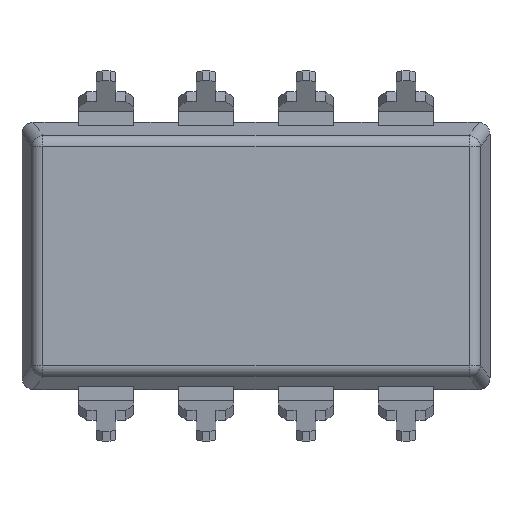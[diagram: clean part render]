
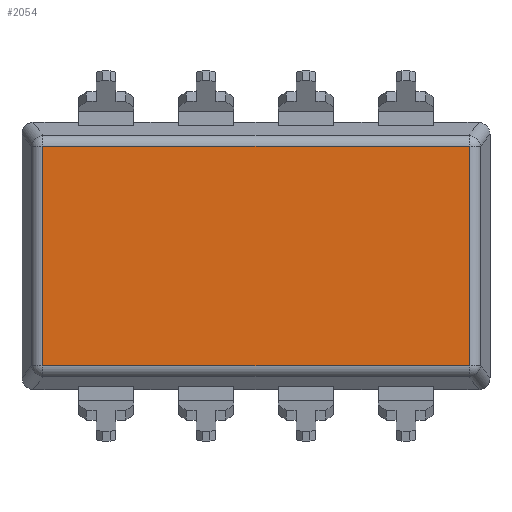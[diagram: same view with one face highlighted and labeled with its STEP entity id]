
A CAD part, front view. The second image highlights one B-rep face of the part: STEP entity #2054.
In plain terms, the highlighted planar face has unit normal (0, -1, 0).
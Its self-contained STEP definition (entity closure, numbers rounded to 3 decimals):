
#2053 = VERTEX_POINT ( 'NONE', #8544 ) ;
#2054 = ADVANCED_FACE ( 'NONE', ( #8543 ), #8542, .F. ) ;
#2055 = EDGE_LOOP ( 'NONE', ( #2133, #2062, #2126, #2130 ) ) ;
#2062 = ORIENTED_EDGE ( 'NONE', *, *, #2125, .T. ) ;
#2125 = EDGE_CURVE ( 'NONE', #2132, #2127, #8720, .T. ) ;
#2126 = ORIENTED_EDGE ( 'NONE', *, *, #2128, .T. ) ;
#2127 = VERTEX_POINT ( 'NONE', #8716 ) ;
#2128 = EDGE_CURVE ( 'NONE', #2127, #2129, #8715, .T. ) ;
#2129 = VERTEX_POINT ( 'NONE', #8711 ) ;
#2130 = ORIENTED_EDGE ( 'NONE', *, *, #2131, .T. ) ;
#2131 = EDGE_CURVE ( 'NONE', #2129, #2053, #8710, .T. ) ;
#2132 = VERTEX_POINT ( 'NONE', #8706 ) ;
#2133 = ORIENTED_EDGE ( 'NONE', *, *, #2134, .T. ) ;
#2134 = EDGE_CURVE ( 'NONE', #2053, #2132, #8705, .T. ) ;
#8538 = DIRECTION ( 'NONE',  ( 0., 0., 1. ) ) ;
#8539 = DIRECTION ( 'NONE',  ( 0., 1., 0. ) ) ;
#8540 = CARTESIAN_POINT ( 'NONE',  ( -2.54, 0.5, 3. ) ) ;
#8541 = AXIS2_PLACEMENT_3D ( 'NONE', #8540, #8539, #8538 ) ;
#8542 = PLANE ( 'NONE',  #8541 ) ;
#8543 = FACE_OUTER_BOUND ( 'NONE', #2055, .T. ) ;
#8544 = CARTESIAN_POINT ( 'NONE',  ( -5.419, 0.5, -2.787 ) ) ;
#8702 = DIRECTION ( 'NONE',  ( 1., 0., 0. ) ) ;
#8703 = VECTOR ( 'NONE', #8702, 1000. ) ;
#8704 = CARTESIAN_POINT ( 'NONE',  ( -2.54, 0.5, -2.787 ) ) ;
#8705 = LINE ( 'NONE', #8704, #8703 ) ;
#8706 = CARTESIAN_POINT ( 'NONE',  ( 5.419, 0.5, -2.787 ) ) ;
#8707 = DIRECTION ( 'NONE',  ( 0., 0., -1. ) ) ;
#8708 = VECTOR ( 'NONE', #8707, 1000. ) ;
#8709 = CARTESIAN_POINT ( 'NONE',  ( -5.419, 0.5, 3. ) ) ;
#8710 = LINE ( 'NONE', #8709, #8708 ) ;
#8711 = CARTESIAN_POINT ( 'NONE',  ( -5.419, 0.5, 2.787 ) ) ;
#8712 = DIRECTION ( 'NONE',  ( -1., 0., 0. ) ) ;
#8713 = VECTOR ( 'NONE', #8712, 1000. ) ;
#8714 = CARTESIAN_POINT ( 'NONE',  ( -2.54, 0.5, 2.787 ) ) ;
#8715 = LINE ( 'NONE', #8714, #8713 ) ;
#8716 = CARTESIAN_POINT ( 'NONE',  ( 5.419, 0.5, 2.787 ) ) ;
#8717 = DIRECTION ( 'NONE',  ( 0., 0., 1. ) ) ;
#8718 = VECTOR ( 'NONE', #8717, 1000. ) ;
#8719 = CARTESIAN_POINT ( 'NONE',  ( 5.419, 0.5, 3. ) ) ;
#8720 = LINE ( 'NONE', #8719, #8718 ) ;
